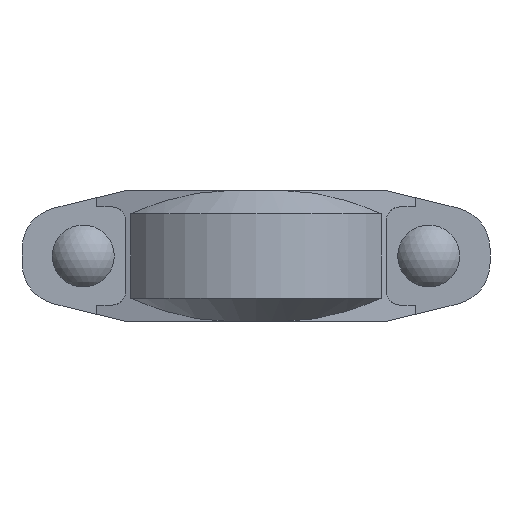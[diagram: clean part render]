
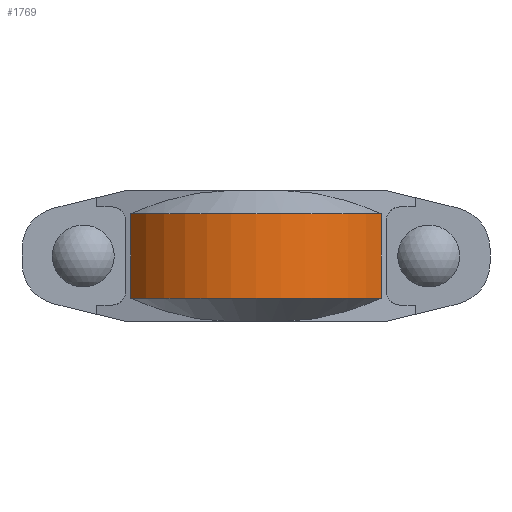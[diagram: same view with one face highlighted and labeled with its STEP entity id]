
A CAD part, front view. The second image highlights one B-rep face of the part: STEP entity #1769.
In plain terms, the highlighted cylindrical face has radius 53.467 mm (diameter 106.934 mm), a partial arc.
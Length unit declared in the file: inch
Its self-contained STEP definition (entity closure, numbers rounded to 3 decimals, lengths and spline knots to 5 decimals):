
#206=FACE_OUTER_BOUND('',#303,.T.);
#303=EDGE_LOOP('',(#1497,#1498,#1499,#1500));
#378=LINE('',#2666,#535);
#434=LINE('',#2829,#591);
#535=VECTOR('',#2139,0.3937);
#591=VECTOR('',#2271,0.3937);
#677=CIRCLE('',#1911,2.105);
#681=CIRCLE('',#1918,2.105);
#764=VERTEX_POINT('',#2661);
#765=VERTEX_POINT('',#2665);
#821=VERTEX_POINT('',#2824);
#822=VERTEX_POINT('',#2828);
#946=EDGE_CURVE('',#765,#764,#378,.T.);
#1021=EDGE_CURVE('',#822,#821,#434,.T.);
#1042=EDGE_CURVE('',#764,#822,#677,.T.);
#1049=EDGE_CURVE('',#765,#821,#681,.T.);
#1497=ORIENTED_EDGE('',*,*,#946,.T.);
#1498=ORIENTED_EDGE('',*,*,#1042,.T.);
#1499=ORIENTED_EDGE('',*,*,#1021,.T.);
#1500=ORIENTED_EDGE('',*,*,#1049,.F.);
#1601=CYLINDRICAL_SURFACE('',#1935,2.105);
#1769=ADVANCED_FACE('',(#206),#1601,.T.);
#1911=AXIS2_PLACEMENT_3D('',#2866,#2310,#2311);
#1918=AXIS2_PLACEMENT_3D('',#2880,#2327,#2328);
#1935=AXIS2_PLACEMENT_3D('',#2919,#2375,#2376);
#2139=DIRECTION('',(0.,0.,1.));
#2271=DIRECTION('',(0.,0.,-1.));
#2310=DIRECTION('center_axis',(0.,0.,-1.));
#2311=DIRECTION('ref_axis',(0.,-1.,0.));
#2327=DIRECTION('center_axis',(0.,0.,-1.));
#2328=DIRECTION('ref_axis',(0.,-1.,0.));
#2375=DIRECTION('center_axis',(0.,0.,-1.));
#2376=DIRECTION('ref_axis',(0.,-1.,0.));
#2661=CARTESIAN_POINT('',(1.77166,-1.13676,0.595));
#2665=CARTESIAN_POINT('',(1.77166,-1.13676,-0.595));
#2666=CARTESIAN_POINT('',(1.77166,-1.13676,0.));
#2824=CARTESIAN_POINT('',(-1.77166,-1.13676,-0.595));
#2828=CARTESIAN_POINT('',(-1.77166,-1.13676,0.595));
#2829=CARTESIAN_POINT('',(-1.77166,-1.13676,0.));
#2866=CARTESIAN_POINT('Origin',(0.,0.,0.595));
#2880=CARTESIAN_POINT('Origin',(0.,0.,-0.595));
#2919=CARTESIAN_POINT('Origin',(0.,0.,0.));
